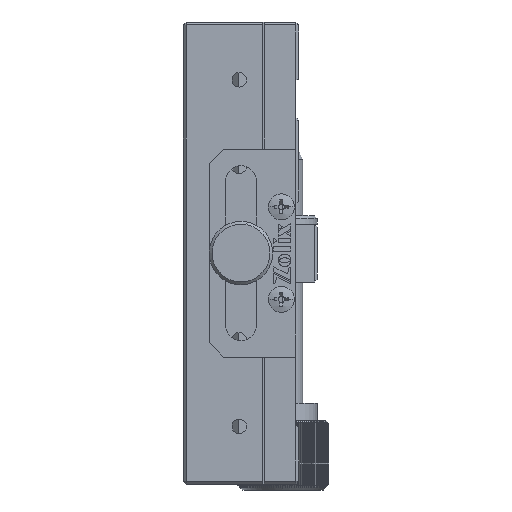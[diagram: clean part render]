
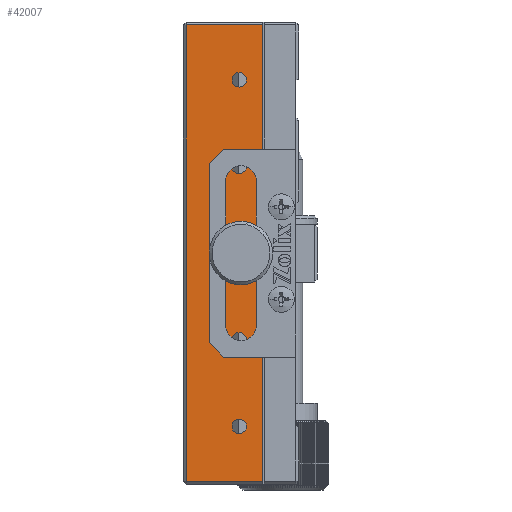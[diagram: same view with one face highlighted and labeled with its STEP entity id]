
A CAD part, left-side view. The second image highlights one B-rep face of the part: STEP entity #42007.
In plain terms, the highlighted planar face has unit normal (-1, 0, 0).
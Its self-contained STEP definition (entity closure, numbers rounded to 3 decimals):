
#431 = CARTESIAN_POINT ( 'NONE',  ( -39.763, -6.175, 62.5 ) ) ;
#1312 = DIRECTION ( 'NONE',  ( 0., 0., 1. ) ) ;
#1387 = CARTESIAN_POINT ( 'NONE',  ( -39.763, -6.175, 122.5 ) ) ;
#1574 = EDGE_CURVE ( 'NONE', #4509, #9728, #29340, .T. ) ;
#1582 = AXIS2_PLACEMENT_3D ( 'NONE', #42253, #29483, #29334 ) ;
#2384 = CIRCLE ( 'NONE', #15751, 1.25 ) ;
#2498 = ORIENTED_EDGE ( 'NONE', *, *, #18377, .F. ) ;
#2620 = VERTEX_POINT ( 'NONE', #14223 ) ;
#3272 = EDGE_CURVE ( 'NONE', #41162, #36849, #17421, .T. ) ;
#3284 = CARTESIAN_POINT ( 'NONE',  ( -39.763, -10.175, 53. ) ) ;
#4418 = ORIENTED_EDGE ( 'NONE', *, *, #27031, .T. ) ;
#4509 = VERTEX_POINT ( 'NONE', #14993 ) ;
#4740 = ORIENTED_EDGE ( 'NONE', *, *, #16099, .F. ) ;
#4908 = AXIS2_PLACEMENT_3D ( 'NONE', #15489, #25779, #15357 ) ;
#5101 = DIRECTION ( 'NONE',  ( 0., 0., 1. ) ) ;
#5226 = CARTESIAN_POINT ( 'NONE',  ( -39.763, -6.175, 123.75 ) ) ;
#5533 = DIRECTION ( 'NONE',  ( 0., 0., 1. ) ) ;
#5720 = CARTESIAN_POINT ( 'NONE',  ( -39.763, -6.175, 106.25 ) ) ;
#5889 = DIRECTION ( 'NONE',  ( -1., 0., 0. ) ) ;
#5898 = EDGE_LOOP ( 'NONE', ( #4740, #32434 ) ) ;
#7555 = FACE_OUTER_BOUND ( 'NONE', #25725, .T. ) ;
#7781 = CARTESIAN_POINT ( 'NONE',  ( -39.763, -6.175, 62.5 ) ) ;
#8041 = EDGE_CURVE ( 'NONE', #2620, #9254, #36416, .T. ) ;
#8308 = CARTESIAN_POINT ( 'NONE',  ( -39.763, -6.475, 90.4 ) ) ;
#8406 = CARTESIAN_POINT ( 'NONE',  ( -39.763, -6.175, 76.25 ) ) ;
#8563 = DIRECTION ( 'NONE',  ( -1., 0., 0. ) ) ;
#8751 = AXIS2_PLACEMENT_3D ( 'NONE', #431, #29979, #22969 ) ;
#8810 = CARTESIAN_POINT ( 'NONE',  ( -39.763, -6.175, 107.5 ) ) ;
#8971 = DIRECTION ( 'NONE',  ( -1., 0., 0. ) ) ;
#9254 = VERTEX_POINT ( 'NONE', #8406 ) ;
#9541 = CARTESIAN_POINT ( 'NONE',  ( -39.763, -6.175, 63.75 ) ) ;
#9627 = FACE_BOUND ( 'NONE', #5898, .T. ) ;
#9728 = VERTEX_POINT ( 'NONE', #31589 ) ;
#9790 = CARTESIAN_POINT ( 'NONE',  ( -39.763, 3.025, 132. ) ) ;
#10250 = EDGE_CURVE ( 'NONE', #23366, #33002, #41930, .T. ) ;
#10777 = DIRECTION ( 'NONE',  ( 0., 0., 1. ) ) ;
#11147 = CIRCLE ( 'NONE', #19147, 1.25 ) ;
#11751 = CIRCLE ( 'NONE', #4908, 2.1 ) ;
#12867 = AXIS2_PLACEMENT_3D ( 'NONE', #41538, #8563, #5101 ) ;
#13187 = AXIS2_PLACEMENT_3D ( 'NONE', #8810, #8971, #35366 ) ;
#13343 = ORIENTED_EDGE ( 'NONE', *, *, #34481, .T. ) ;
#13744 = DIRECTION ( 'NONE',  ( 0., 1., 0. ) ) ;
#14223 = CARTESIAN_POINT ( 'NONE',  ( -39.763, -6.175, 78.75 ) ) ;
#14487 = CIRCLE ( 'NONE', #13187, 1.25 ) ;
#14592 = DIRECTION ( 'NONE',  ( 0., 0., 1. ) ) ;
#14693 = EDGE_LOOP ( 'NONE', ( #2498, #20016 ) ) ;
#14993 = CARTESIAN_POINT ( 'NONE',  ( -39.763, 3.025, 53. ) ) ;
#15357 = DIRECTION ( 'NONE',  ( 0., 0., 1. ) ) ;
#15489 = CARTESIAN_POINT ( 'NONE',  ( -39.763, -6.475, 92.5 ) ) ;
#15550 = VERTEX_POINT ( 'NONE', #38667 ) ;
#15631 = VERTEX_POINT ( 'NONE', #9541 ) ;
#15709 = PLANE ( 'NONE',  #16830 ) ;
#15751 = AXIS2_PLACEMENT_3D ( 'NONE', #25172, #18746, #5533 ) ;
#16099 = EDGE_CURVE ( 'NONE', #15631, #22948, #11147, .T. ) ;
#16524 = VECTOR ( 'NONE', #39171, 1000. ) ;
#16830 = AXIS2_PLACEMENT_3D ( 'NONE', #25299, #28453, #35068 ) ;
#16838 = FACE_BOUND ( 'NONE', #34454, .T. ) ;
#16884 = ORIENTED_EDGE ( 'NONE', *, *, #8041, .F. ) ;
#17040 = CIRCLE ( 'NONE', #30192, 1.25 ) ;
#17421 = LINE ( 'NONE', #23493, #40003 ) ;
#18377 = EDGE_CURVE ( 'NONE', #15550, #40734, #14487, .T. ) ;
#18746 = DIRECTION ( 'NONE',  ( -1., 0., 0. ) ) ;
#18948 = EDGE_CURVE ( 'NONE', #33002, #23366, #17040, .T. ) ;
#19109 = ORIENTED_EDGE ( 'NONE', *, *, #39490, .F. ) ;
#19147 = AXIS2_PLACEMENT_3D ( 'NONE', #7781, #20994, #1312 ) ;
#19276 = CARTESIAN_POINT ( 'NONE',  ( -39.763, -6.175, 121.25 ) ) ;
#19542 = VECTOR ( 'NONE', #28272, 1000. ) ;
#19741 = VERTEX_POINT ( 'NONE', #29131 ) ;
#20016 = ORIENTED_EDGE ( 'NONE', *, *, #21810, .F. ) ;
#20295 = EDGE_LOOP ( 'NONE', ( #28648, #39256 ) ) ;
#20420 = FACE_BOUND ( 'NONE', #20295, .T. ) ;
#20978 = VERTEX_POINT ( 'NONE', #8308 ) ;
#20994 = DIRECTION ( 'NONE',  ( -1., 0., 0. ) ) ;
#21810 = EDGE_CURVE ( 'NONE', #40734, #15550, #2384, .T. ) ;
#22245 = CARTESIAN_POINT ( 'NONE',  ( -39.763, -6.475, 92.5 ) ) ;
#22719 = AXIS2_PLACEMENT_3D ( 'NONE', #23835, #27084, #10777 ) ;
#22948 = VERTEX_POINT ( 'NONE', #42008 ) ;
#22969 = DIRECTION ( 'NONE',  ( 0., 0., 1. ) ) ;
#23366 = VERTEX_POINT ( 'NONE', #19276 ) ;
#23493 = CARTESIAN_POINT ( 'NONE',  ( -39.763, -10.175, 132. ) ) ;
#23835 = CARTESIAN_POINT ( 'NONE',  ( -39.763, -6.175, 77.5 ) ) ;
#23870 = ORIENTED_EDGE ( 'NONE', *, *, #3272, .T. ) ;
#25172 = CARTESIAN_POINT ( 'NONE',  ( -39.763, -6.175, 107.5 ) ) ;
#25299 = CARTESIAN_POINT ( 'NONE',  ( -39.763, -10.175, 52.5 ) ) ;
#25337 = CARTESIAN_POINT ( 'NONE',  ( -39.763, -10.175, 132. ) ) ;
#25576 = EDGE_CURVE ( 'NONE', #19741, #20978, #26807, .T. ) ;
#25725 = EDGE_LOOP ( 'NONE', ( #4418, #31591, #13343, #23870 ) ) ;
#25779 = DIRECTION ( 'NONE',  ( -1., 0., 0. ) ) ;
#26652 = CARTESIAN_POINT ( 'NONE',  ( -39.763, -10.175, 52.5 ) ) ;
#26687 = LINE ( 'NONE', #26652, #38002 ) ;
#26807 = CIRCLE ( 'NONE', #35905, 2.1 ) ;
#27031 = EDGE_CURVE ( 'NONE', #36849, #4509, #32849, .T. ) ;
#27084 = DIRECTION ( 'NONE',  ( -1., 0., 0. ) ) ;
#28060 = FACE_BOUND ( 'NONE', #14693, .T. ) ;
#28272 = DIRECTION ( 'NONE',  ( 0., 0., -1. ) ) ;
#28300 = ORIENTED_EDGE ( 'NONE', *, *, #18948, .F. ) ;
#28417 = CARTESIAN_POINT ( 'NONE',  ( -39.763, 3.025, 52.5 ) ) ;
#28453 = DIRECTION ( 'NONE',  ( -1., 0., 0. ) ) ;
#28648 = ORIENTED_EDGE ( 'NONE', *, *, #25576, .F. ) ;
#29115 = FACE_BOUND ( 'NONE', #36580, .T. ) ;
#29131 = CARTESIAN_POINT ( 'NONE',  ( -39.763, -6.475, 94.6 ) ) ;
#29166 = EDGE_CURVE ( 'NONE', #22948, #15631, #41946, .T. ) ;
#29334 = DIRECTION ( 'NONE',  ( 0., 0., 1. ) ) ;
#29340 = LINE ( 'NONE', #3284, #16524 ) ;
#29483 = DIRECTION ( 'NONE',  ( -1., 0., 0. ) ) ;
#29979 = DIRECTION ( 'NONE',  ( -1., 0., 0. ) ) ;
#30192 = AXIS2_PLACEMENT_3D ( 'NONE', #1387, #30928, #14592 ) ;
#30928 = DIRECTION ( 'NONE',  ( -1., 0., 0. ) ) ;
#31589 = CARTESIAN_POINT ( 'NONE',  ( -39.763, -10.175, 53. ) ) ;
#31591 = ORIENTED_EDGE ( 'NONE', *, *, #1574, .T. ) ;
#32142 = DIRECTION ( 'NONE',  ( 0., 0., 1. ) ) ;
#32434 = ORIENTED_EDGE ( 'NONE', *, *, #29166, .F. ) ;
#32849 = LINE ( 'NONE', #28417, #19542 ) ;
#33002 = VERTEX_POINT ( 'NONE', #5226 ) ;
#34454 = EDGE_LOOP ( 'NONE', ( #28300, #38280 ) ) ;
#34481 = EDGE_CURVE ( 'NONE', #9728, #41162, #26687, .T. ) ;
#35068 = DIRECTION ( 'NONE',  ( 0., 0., 1. ) ) ;
#35366 = DIRECTION ( 'NONE',  ( 0., 0., 1. ) ) ;
#35905 = AXIS2_PLACEMENT_3D ( 'NONE', #22245, #5889, #32142 ) ;
#36416 = CIRCLE ( 'NONE', #22719, 1.25 ) ;
#36580 = EDGE_LOOP ( 'NONE', ( #16884, #19109 ) ) ;
#36849 = VERTEX_POINT ( 'NONE', #9790 ) ;
#37538 = CIRCLE ( 'NONE', #12867, 1.25 ) ;
#38002 = VECTOR ( 'NONE', #40316, 1000. ) ;
#38280 = ORIENTED_EDGE ( 'NONE', *, *, #10250, .F. ) ;
#38667 = CARTESIAN_POINT ( 'NONE',  ( -39.763, -6.175, 108.75 ) ) ;
#39171 = DIRECTION ( 'NONE',  ( 0., -1., 0. ) ) ;
#39256 = ORIENTED_EDGE ( 'NONE', *, *, #40646, .F. ) ;
#39490 = EDGE_CURVE ( 'NONE', #9254, #2620, #37538, .T. ) ;
#40003 = VECTOR ( 'NONE', #13744, 1000. ) ;
#40316 = DIRECTION ( 'NONE',  ( 0., 0., 1. ) ) ;
#40646 = EDGE_CURVE ( 'NONE', #20978, #19741, #11751, .T. ) ;
#40734 = VERTEX_POINT ( 'NONE', #5720 ) ;
#41162 = VERTEX_POINT ( 'NONE', #25337 ) ;
#41538 = CARTESIAN_POINT ( 'NONE',  ( -39.763, -6.175, 77.5 ) ) ;
#41930 = CIRCLE ( 'NONE', #1582, 1.25 ) ;
#41946 = CIRCLE ( 'NONE', #8751, 1.25 ) ;
#42007 = ADVANCED_FACE ( 'NONE', ( #29115, #9627, #16838, #28060, #20420, #7555 ), #15709, .T. ) ;
#42008 = CARTESIAN_POINT ( 'NONE',  ( -39.763, -6.175, 61.25 ) ) ;
#42253 = CARTESIAN_POINT ( 'NONE',  ( -39.763, -6.175, 122.5 ) ) ;
